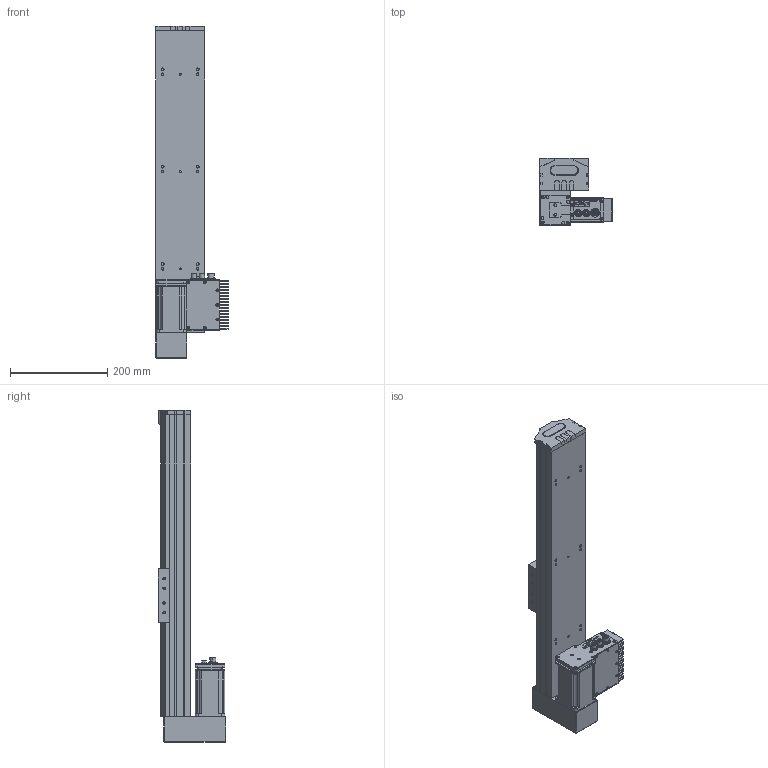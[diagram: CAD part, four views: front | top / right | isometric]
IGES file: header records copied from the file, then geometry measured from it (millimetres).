
Start section: SolidWorks IGES file using analytic representation for surfaces
Global section: file name: C:\Documents and Settings\1EDPI\Mes documents\yanize\S 10 TSH BM\S 10 TSH BM S400.IGS; native system: SolidWorks 2010; preprocessor: SolidWorks 2010; author: 1EDPI; date: 120906.165813; units: millimetre
Bounding box: 149.38 x 138.75 x 682 mm (x, y, z)
Surface area: 615535.7 mm2 (no closed solid volume)
Topology: 0 solids, 0 shells, 1961 faces, 26116 edges, 26084 vertices
Faces by surface type: revolution 1037, bspline 924
